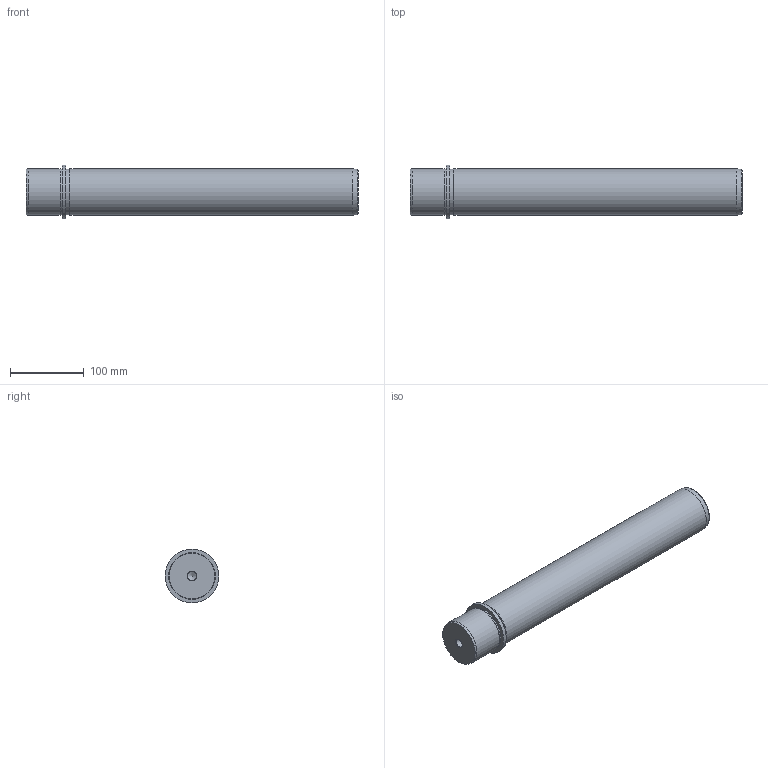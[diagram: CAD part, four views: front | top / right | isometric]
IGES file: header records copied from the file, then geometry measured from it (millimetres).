
Global section: file name: CE63400.ipt; native system: Autodesk Inventor 2021; preprocessor: unknown; author: SM; date: 20211217.134542; units: millimetre
Bounding box: 449 x 73 x 73 mm (x, y, z)
Volume: 1400206.7 mm3; surface area: 98244.8 mm2
Topology: 1 solids, 1 shells, 17 faces, 35 edges, 22 vertices
Faces by surface type: cylinder 5, cone 4, plane 4, revolution 3, bspline 1
Full cylindrical faces by diameter (mm): 62 x2, 63 x2, 73 x1
